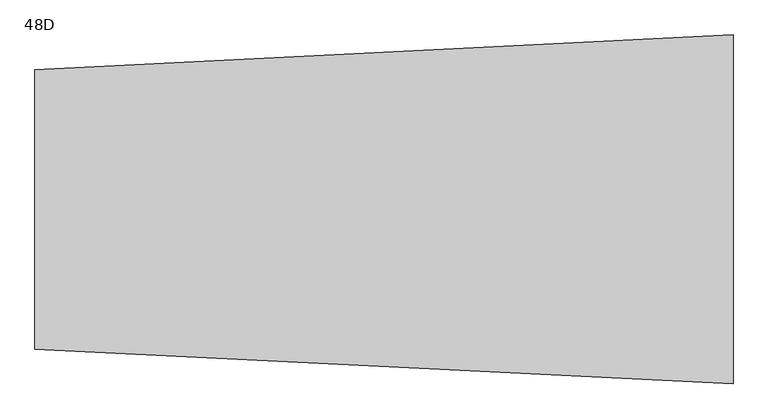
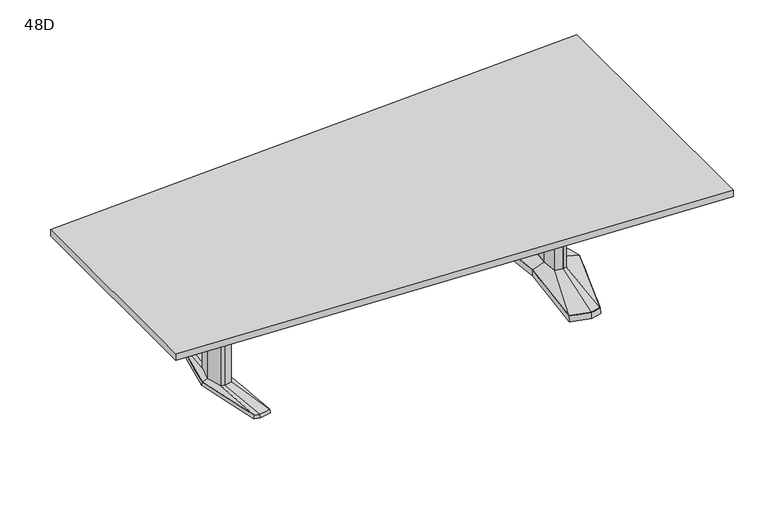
"""IFC4 building model written with IfcOpenShell, lengths in millimetres: furniture geometry, Coalesse_AM_Table_Conference_ETable2_Trapezoid_10ft_AluminiumBase : 48D."""

from ifc_helpers import new_model, si_unit, frame, origin, place, context, project, spatial, polyline, outline, extrude, faceted_brep, source, transform, mapped, element, save
from ifc_brep_helpers import plane_surface, spline_surface, advanced_brep


def furniture_48d_a1e4d97a(model_context):
    return source(origin(), model_context, "Body", "SolidModel", [
        faceted_brep([(905.8306835, 455.5848221, 38.1), (796.2531277, 426.2263816, 38.1), (837.4163717, 0.0, 38.1), (796.2531277, -426.2263816, 38.1), (905.8306835, -455.5848221, 38.1), (961.9570396, -440.5478297, 38.1), (1099.2684269, 0.0, 38.1), (961.9570396, 440.5478297, 38.1), (905.8306754, 457.2283104, 3.175), (963.2124472, 441.8549756, 3.175), (1100.93125, 0.0, 3.175), (963.2124472, -441.8549756, 3.175), (905.8306754, -457.2283104, 3.175), (794.54375, -427.4118891, 3.175), (835.8214856, 0.0, 3.175), (794.54375, 427.4118891, 3.175), (909.420115, 428.3273875, 3.175), (804.3718228, 402.1057253, 3.175), (812.490518, 377.985069, 3.175), (913.0095466, 401.0699529, 3.175), (963.5691725, 387.524361, 3.175), (962.7631061, 414.0360954, 3.175), (909.420115, -428.3273875, 3.175), (962.7631061, -414.0360954, 3.175), (963.5691725, -387.524361, 3.175), (913.0095466, -401.0699529, 3.175), (812.490518, -377.985069, 3.175), (804.3718228, -402.1057253, 3.175), (1036.0153621, 0.0, 3.175), (1003.7459611, 120.4193755, 3.175), (955.0987222, 133.471665, 3.175), (875.2180526, 119.4176561, 3.175), (864.0868466, 0.0, 3.175), (875.2180526, -119.4176561, 3.175), (955.0987222, -133.471665, 3.175), (1003.7459611, -120.4193755, 3.175), (909.420115, 428.3273875, 0.0), (962.7631061, 414.0360954, 0.0), (963.5691725, 387.524361, 0.0), (913.0095466, 401.0699529, 0.0), (812.490518, 377.985069, 0.0), (804.3718228, 402.1057253, 0.0), (909.420115, -428.3273875, 0.0), (804.3718228, -402.1057253, 0.0), (812.490518, -377.985069, 0.0), (913.0095466, -401.0699529, 0.0), (963.5691725, -387.524361, 0.0), (962.7631061, -414.0360954, 0.0), (1036.0153621, 0.0, 0.0), (1003.7459611, -120.4193755, 0.0), (955.0987222, -133.471665, 0.0), (875.2180526, -119.4176561, 0.0), (864.0868466, 0.0, 0.0), (875.2180526, 119.4176561, 0.0), (955.0987222, 133.471665, 0.0), (1003.7459611, 120.4193755, 0.0)], [[[0, 1, 2, 3, 4, 5, 6, 7]], [[8, 9, 10, 11, 12, 13, 14, 15], [16, 17, 18, 19, 20, 21], [22, 23, 24, 25, 26, 27], [28, 29, 30, 31, 32, 33, 34, 35]], [[7, 9, 8, 0]], [[6, 10, 9, 7]], [[5, 11, 10, 6]], [[4, 12, 11, 5]], [[3, 13, 12, 4]], [[2, 14, 13, 3]], [[1, 15, 14, 2]], [[0, 8, 15, 1]], [[36, 37, 38, 39, 40, 41]], [[42, 43, 44, 45, 46, 47]], [[48, 49, 50, 51, 52, 53, 54, 55]], [[36, 16, 21, 37]], [[37, 21, 20, 38]], [[38, 20, 19, 39]], [[39, 19, 18, 40]], [[40, 18, 17, 41]], [[41, 17, 16, 36]], [[42, 22, 27, 43]], [[43, 27, 26, 44]], [[44, 26, 25, 45]], [[45, 25, 24, 46]], [[46, 24, 23, 47]], [[47, 23, 22, 42]], [[48, 28, 35, 49]], [[49, 35, 34, 50]], [[50, 34, 33, 51]], [[51, 33, 32, 52]], [[52, 32, 31, 53]], [[53, 31, 30, 54]], [[54, 30, 29, 55]], [[55, 29, 28, 48]]]),
        faceted_brep([(996.5710836, 0.0, 698.5), (972.6358546, 89.3188359, 698.5), (955.7824984, 93.8406728, 698.5), (953.3826511, 94.4845635, 698.5), (910.455146, 86.9320037, 698.5), (902.3520056, 0.0, 698.5), (910.455146, -86.9320037, 698.5), (953.3826511, -94.4845635, 698.5), (955.7824984, -93.8406728, 698.5), (972.6358546, -89.3188359, 698.5), (996.5710836, 0.0, 63.5), (972.6358546, -89.3188359, 63.5), (955.7824984, -93.8406728, 63.5), (953.3826511, -94.4845635, 63.5), (910.455146, -86.9320037, 63.5), (902.3520056, 0.0, 63.5), (910.455146, 86.9320037, 63.5), (953.3826511, 94.4845635, 63.5), (955.7824984, 93.8406728, 63.5), (972.6358546, 89.3188359, 63.5)], [[[0, 1, 2, 3, 4, 5, 6, 7, 8, 9]], [[10, 11, 12, 13, 14, 15, 16, 17, 18, 19]], [[9, 11, 10, 0]], [[8, 12, 11, 9]], [[7, 13, 12, 8]], [[6, 14, 13, 7]], [[5, 15, 14, 6]], [[4, 16, 15, 5]], [[3, 17, 16, 4]], [[2, 18, 17, 3]], [[1, 19, 18, 2]], [[0, 10, 19, 1]]]),
        advanced_brep(
        [(953.3826511, 94.4845635, 63.5), (910.455146, 86.9320037, 63.5), (902.3520056, 0.0, 63.5), (910.455146, -86.9320037, 63.5), (953.3826511, -94.4845635, 63.5), (972.6358546, -89.3188359, 63.5), (996.5710836, 0.0, 63.5), (972.6358546, 89.3188359, 63.5), (905.8306835, 455.5848221, 38.1), (961.9570396, 440.5478297, 38.1), (1099.2684269, 0.0, 38.1), (961.9570396, -440.5478297, 38.1), (905.8306835, -455.5848221, 38.1), (796.2531277, -426.2263816, 38.1), (837.4163717, 0.0, 38.1), (796.2531277, 426.2263816, 38.1)],
        [
            (0, 1),
            (1, 2),
            (2, 3),
            (3, 4),
            (4, 5),
            (5, 6),
            (6, 7),
            (7, 0),
            (8, 9),
            (9, 10),
            (10, 11),
            (11, 12),
            (12, 13),
            (13, 14),
            (14, 15),
            (15, 8),
            (8, 0),
            (7, 9),
            (6, 10),
            (5, 11),
            (4, 12),
            (3, 13),
            (2, 14),
            (1, 15),
        ],
        [
            plane_surface(frame((946.4837991, 0.0, 63.5), z_axis=(0.0, 0.0, 1.0), x_axis=(-0.25884244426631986, -0.9659195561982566, 0.0))),
            plane_surface(frame((908.0958125, 0.0, 38.1), z_axis=(0.0, 0.0, -1.0), x_axis=(-0.25884244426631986, -0.9659195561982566, 0.0))),
            spline_surface(1, 1, [[(905.8306835, 455.5848221, 38.1), (961.9570396, 440.5478297, 38.1)], [(953.3826511, 94.4845635, 63.5), (972.6358546, 89.3188359, 63.5)]], [2, 2], [2, 2], [0.0, 1.0], [0.0, 1.0]),
            spline_surface(1, 1, [[(961.9570396, 440.5478297, 38.1), (1099.2684269, 0.0, 38.1)], [(972.6358546, 89.3188359, 63.5), (996.5710836, 0.0, 63.5)]], [2, 2], [2, 2], [0.0, 1.0], [0.0, 1.0]),
            spline_surface(1, 1, [[(1099.2684269, 0.0, 38.1), (961.9570396, -440.5478297, 38.1)], [(996.5710836, 0.0, 63.5), (972.6358546, -89.3188359, 63.5)]], [2, 2], [2, 2], [0.0, 1.0], [0.0, 1.0]),
            spline_surface(1, 1, [[(961.9570396, -440.5478297, 38.1), (905.8306835, -455.5848221, 38.1)], [(972.6358546, -89.3188359, 63.5), (953.3826511, -94.4845635, 63.5)]], [2, 2], [2, 2], [0.0, 1.0], [0.0, 1.0]),
            spline_surface(1, 1, [[(905.8306835, -455.5848221, 38.1), (796.2531277, -426.2263816, 38.1)], [(953.3826511, -94.4845635, 63.5), (910.455146, -86.9320037, 63.5)]], [2, 2], [2, 2], [0.0, 1.0], [0.0, 1.0]),
            spline_surface(1, 1, [[(796.2531277, -426.2263816, 38.1), (837.4163717, 0.0, 38.1)], [(910.455146, -86.9320037, 63.5), (902.3520056, 0.0, 63.5)]], [2, 2], [2, 2], [0.0, 1.0], [0.0, 1.0]),
            spline_surface(1, 1, [[(837.4163717, 0.0, 38.1), (796.2531277, 426.2263816, 38.1)], [(902.3520056, 0.0, 63.5), (910.455146, 86.9320037, 63.5)]], [2, 2], [2, 2], [0.0, 1.0], [0.0, 1.0]),
            spline_surface(1, 1, [[(796.2531277, 426.2263816, 38.1), (905.8306835, 455.5848221, 38.1)], [(910.455146, 86.9320037, 63.5), (953.3826511, 94.4845635, 63.5)]], [2, 2], [2, 2], [0.0, 1.0], [0.0, 1.0]),
        ],
        [
            (0, [[1, 2, 3, 4, 5, 6, 7, 8]]),
            (1, [[9, 10, 11, 12, 13, 14, 15, 16]]),
            (2, [[17, -8, 18, -9]]),
            (3, [[-18, -7, 19, -10]]),
            (4, [[-19, -6, 20, -11]]),
            (5, [[-20, -5, 21, -12]]),
            (6, [[-21, -4, 22, -13]]),
            (7, [[-22, -3, 23, -14]]),
            (8, [[-23, -2, 24, -15]]),
            (9, [[-24, -1, -17, -16]]),
        ],
    ),
        advanced_brep(
        [(-917.2690971, -379.3768856, 25.4), (-951.3982754, -94.605478, 36.5125), (-970.6514743, -89.293702, 36.5125), (-946.9944136, -371.5332654, 25.4), (-854.1800038, -368.5071562, 25.4), (-908.4708501, -87.0529327, 36.5125), (-882.2577254, 0.3970149, 25.4), (-900.3551707, 0.0, 36.5125), (-854.1802502, 368.5172593, 25.4), (-908.4708501, 87.0529327, 36.5125), (-917.2689733, 379.3769183, 25.4), (-951.3982754, 94.605478, 36.5125), (-947.1722958, 371.4863276, 25.4), (-970.6514743, 89.293702, 36.5125), (-1023.9039163, 0.0003516, 25.4), (-994.5782751, 0.0, 36.5125), (-880.6656242, 0.3968871, 3.175), (-852.4875, -369.8264415, 3.175), (-917.3400504, -381.0, 3.175), (-948.3497317, -372.8174744, 3.175), (-1025.525, 0.0, 3.175), (-948.5280745, 372.7704151, 3.175), (-917.3400504, 381.0, 3.175), (-852.4875, 369.8367279, 3.175), (-952.0166764, 107.6121478, 3.175), (-981.0370973, 99.6056872, 3.175), (-1007.7270585, 0.0, 3.175), (-981.0370973, -99.6056872, 3.175), (-952.0166764, -107.6121478, 3.175), (-896.7252951, -97.8843184, 3.175), (-887.5998387, 0.0, 3.175), (-896.7252951, 97.8843184, 3.175), (-915.8474312, 346.9152841, 3.175), (-949.9732026, 337.9105158, 3.175), (-951.0913109, 324.4807859, 3.175), (-915.2788144, 333.9306305, 3.175), (-862.6077418, 324.8641942, 3.175), (-860.1998871, 337.3364985, 3.175), (-915.8474312, -346.9152841, 3.175), (-860.1998871, -337.3364985, 3.175), (-862.6077418, -324.8641942, 3.175), (-915.2788144, -333.9306305, 3.175), (-951.0913109, -324.4807859, 3.175), (-949.9732026, -337.9105158, 3.175), (-952.0166764, 107.6121478, 0.0), (-896.7252951, 97.8843184, 0.0), (-887.5998387, 0.0, 0.0), (-896.7252951, -97.8843184, 0.0), (-952.0166764, -107.6121478, 0.0), (-981.0370973, -99.6056872, 0.0), (-1007.7270585, 0.0, 0.0), (-981.0370973, 99.6056872, 0.0), (-915.8474312, 346.9152841, 0.0), (-860.1998871, 337.3364985, 0.0), (-862.6077418, 324.8641942, 0.0), (-915.2788144, 333.9306305, 0.0), (-951.0913109, 324.4807859, 0.0), (-949.9732026, 337.9105158, 0.0), (-915.8474312, -346.9152841, 0.0), (-949.9732026, -337.9105158, 0.0), (-951.0913109, -324.4807859, 0.0), (-915.2788144, -333.9306305, 0.0), (-862.6077418, -324.8641942, 0.0), (-860.1998871, -337.3364985, 0.0), (-970.6514743, 89.293702, 698.5), (-994.5782751, 0.0, 698.5), (-970.6514743, -89.293702, 698.5), (-951.3982754, -94.605478, 698.5), (-908.4708501, -87.0529327, 698.5), (-900.3551707, 0.0, 698.5), (-908.4708501, 87.0529327, 698.5), (-951.3982754, 94.605478, 698.5)],
        [
            (0, 1),
            (1, 2),
            (2, 3),
            (3, 0),
            (0, 4),
            (4, 5),
            (5, 1),
            (4, 6),
            (6, 7),
            (7, 5),
            (6, 8),
            (8, 9),
            (9, 7),
            (8, 10),
            (10, 11),
            (11, 9),
            (10, 12),
            (12, 13),
            (13, 11),
            (12, 14),
            (14, 15),
            (15, 13),
            (2, 15),
            (14, 3),
            (16, 17),
            (17, 18),
            (18, 19),
            (19, 20),
            (20, 21),
            (21, 22),
            (22, 23),
            (23, 16),
            (24, 25),
            (25, 26),
            (26, 27),
            (27, 28),
            (28, 29),
            (29, 30),
            (30, 31),
            (31, 24),
            (32, 33),
            (33, 34),
            (34, 35),
            (35, 36),
            (36, 37),
            (37, 32),
            (38, 39),
            (39, 40),
            (40, 41),
            (41, 42),
            (42, 43),
            (43, 38),
            (23, 8),
            (6, 16),
            (22, 10),
            (21, 12),
            (20, 14),
            (19, 3),
            (18, 0),
            (17, 4),
            (44, 45),
            (45, 46),
            (46, 47),
            (47, 48),
            (48, 49),
            (49, 50),
            (50, 51),
            (51, 44),
            (52, 53),
            (53, 54),
            (54, 55),
            (55, 56),
            (56, 57),
            (57, 52),
            (58, 59),
            (59, 60),
            (60, 61),
            (61, 62),
            (62, 63),
            (63, 58),
            (51, 25),
            (24, 44),
            (50, 26),
            (49, 27),
            (48, 28),
            (47, 29),
            (46, 30),
            (45, 31),
            (57, 33),
            (32, 52),
            (56, 34),
            (55, 35),
            (54, 36),
            (53, 37),
            (63, 39),
            (38, 58),
            (62, 40),
            (61, 41),
            (60, 42),
            (59, 43),
            (64, 65),
            (65, 66),
            (66, 67),
            (67, 68),
            (68, 69),
            (69, 70),
            (70, 71),
            (71, 64),
            (64, 13),
            (15, 65),
            (2, 66),
            (1, 67),
            (5, 68),
            (7, 69),
            (9, 70),
            (11, 71),
        ],
        [
            spline_surface(1, 1, [[(-946.9944136, -371.5332654, 25.4), (-970.6514743, -89.293702, 36.5125)], [(-917.2690971, -379.3768856, 25.4), (-951.3982754, -94.605478, 36.5125)]], [2, 2], [2, 2], [0.0, 1.0], [0.0, 1.0]),
            spline_surface(1, 1, [[(-917.2690971, -379.3768856, 25.4), (-951.3982754, -94.605478, 36.5125)], [(-854.1800038, -368.5071562, 25.4), (-908.4708501, -87.0529327, 36.5125)]], [2, 2], [2, 2], [0.0, 1.0], [0.0, 1.0]),
            spline_surface(1, 1, [[(-854.1800038, -368.5071562, 25.4), (-908.4708501, -87.0529327, 36.5125)], [(-882.2577254, 0.3970149, 25.4), (-900.3551707, 0.0, 36.5125)]], [2, 2], [2, 2], [0.0, 1.0], [0.0, 1.0]),
            spline_surface(1, 1, [[(-882.2577254, 0.3970149, 25.4), (-900.3551707, 0.0, 36.5125)], [(-854.1802502, 368.5172593, 25.4), (-908.4708501, 87.0529327, 36.5125)]], [2, 2], [2, 2], [0.0, 1.0], [0.0, 1.0]),
            spline_surface(1, 1, [[(-854.1802502, 368.5172593, 25.4), (-908.4708501, 87.0529327, 36.5125)], [(-917.2689733, 379.3769183, 25.4), (-951.3982754, 94.605478, 36.5125)]], [2, 2], [2, 2], [0.0, 1.0], [0.0, 1.0]),
            spline_surface(1, 1, [[(-917.2689733, 379.3769183, 25.4), (-951.3982754, 94.605478, 36.5125)], [(-947.1722958, 371.4863276, 25.4), (-970.6514743, 89.293702, 36.5125)]], [2, 2], [2, 2], [0.0, 1.0], [0.0, 1.0]),
            spline_surface(1, 1, [[(-947.1722958, 371.4863276, 25.4), (-970.6514743, 89.293702, 36.5125)], [(-1023.9039163, 0.0003516, 25.4), (-994.5782751, 0.0, 36.5125)]], [2, 2], [2, 2], [0.0, 1.0], [0.0, 1.0]),
            spline_surface(1, 1, [[(-1023.9039163, 0.0003516, 25.4), (-994.5782751, 0.0, 36.5125)], [(-946.9944136, -371.5332654, 25.4), (-970.6514743, -89.293702, 36.5125)]], [2, 2], [2, 2], [0.0, 1.0], [0.0, 1.0]),
            plane_surface(frame((-917.8404414, 0.0450143, 3.175), z_axis=(0.0, 0.0, -1.0), x_axis=(0.9669048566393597, -0.2551372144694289, 0.0))),
            plane_surface(frame((-866.5765621, 185.1168075, 3.175), z_axis=(0.9945699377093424, -0.07585840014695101, 0.0712470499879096), x_axis=(0.07605167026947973, 0.9971038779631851, 0.0))),
            plane_surface(frame((-884.9137752, 375.418364, 3.175), z_axis=(0.1692071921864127, 0.9830019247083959, 0.07124704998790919), x_axis=(-0.985506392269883, 0.16963829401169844, 0.0))),
            plane_surface(frame((-932.9340624, 376.8852076, 3.175), z_axis=(-0.2544888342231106, 0.9644476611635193, 0.07124704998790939), x_axis=(-0.9669048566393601, -0.25513721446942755, 0.0))),
            plane_surface(frame((-987.0265372, 186.3852076, 3.175), z_axis=(-0.9768383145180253, 0.2017690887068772, 0.07124704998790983), x_axis=(-0.20228315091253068, -0.9793270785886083, 0.0))),
            plane_surface(frame((-986.9373658, -186.4087372, 3.175), z_axis=(-0.9767507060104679, -0.20219276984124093, 0.07124704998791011), x_axis=(0.2027079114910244, -0.9792392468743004, 0.0))),
            plane_surface(frame((-932.844891, -376.9087372, 3.175), z_axis=(-0.2544888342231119, -0.9644476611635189, 0.0712470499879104), x_axis=(0.9669048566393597, -0.2551372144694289, 0.0))),
            plane_surface(frame((-884.9137752, -375.4132207, 3.175), z_axis=(0.16935861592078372, -0.982975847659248, 0.07124704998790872), x_axis=(0.9854802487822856, 0.16979010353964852, 0.0))),
            plane_surface(frame((-866.5765621, -184.7147772, 3.175), z_axis=(0.9945820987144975, 0.07569878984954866, 0.07124704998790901), x_axis=(-0.07589165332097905, 0.9971160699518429, 0.0))),
            plane_surface(frame((-954.7758979, 106.8509046, 0.0), z_axis=(0.0, 0.0, -1.0000000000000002), x_axis=(0.9639855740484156, 0.26595453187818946, 0.0))),
            plane_surface(frame((-952.0166764, 107.6121478, 3.175), z_axis=(-0.26595453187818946, 0.9639855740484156, 0.0), x_axis=(0.0, 0.0, -1.0))),
            plane_surface(frame((-981.0370973, 99.6056872, 3.175), z_axis=(-0.9659241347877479, 0.2588253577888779, 0.0), x_axis=(0.0, 0.0, -1.0))),
            plane_surface(frame((-1007.7270585, 0.0, 3.175), z_axis=(-0.9659241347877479, -0.2588253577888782, 0.0), x_axis=(0.0, 0.0, -1.0))),
            plane_surface(frame((-981.0370973, -99.6056872, 3.175), z_axis=(-0.26595453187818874, -0.9639855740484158, 0.0), x_axis=(0.0, 0.0, -1.0))),
            plane_surface(frame((-952.0166764, -107.6121478, 3.175), z_axis=(0.17327617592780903, -0.9848732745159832, 0.0), x_axis=(0.0, 0.0, -1.0))),
            plane_surface(frame((-896.7252951, -97.8843184, 3.175), z_axis=(0.9956824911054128, -0.0928244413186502, 0.0), x_axis=(0.0, 0.0, -1.0))),
            plane_surface(frame((-887.5998387, 0.0, 3.175), z_axis=(0.9956824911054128, 0.09282444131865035, 0.0), x_axis=(0.0, 0.0, -1.0))),
            plane_surface(frame((-896.7252951, 97.8843184, 3.175), z_axis=(0.17327617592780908, 0.984873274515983, 0.0), x_axis=(0.0, 0.0, -1.0))),
            plane_surface(frame((-915.8474312, 346.9152841, 3.175), z_axis=(-0.25513721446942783, 0.9669048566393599, 0.0), x_axis=(0.0, 0.0, -1.0))),
            plane_surface(frame((-949.9732026, 337.9105158, 3.175), z_axis=(-0.9965521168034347, 0.0829691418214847, 0.0), x_axis=(0.0, 0.0, -1.0))),
            plane_surface(frame((-951.0913109, 324.4807859, 3.175), z_axis=(0.25513721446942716, -0.9669048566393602, 0.0), x_axis=(0.0, 0.0, -1.0))),
            plane_surface(frame((-915.2788144, 333.9306305, 3.175), z_axis=(-0.16963829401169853, -0.985506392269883, 0.0), x_axis=(0.0, 0.0, -1.0))),
            plane_surface(frame((-862.6077418, 324.8641942, 3.175), z_axis=(0.9818699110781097, -0.18955600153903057, 0.0), x_axis=(0.0, 0.0, -1.0))),
            plane_surface(frame((-860.1998871, 337.3364985, 3.175), z_axis=(0.16963829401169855, 0.9855063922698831, 0.0), x_axis=(0.0, 0.0, -1.0))),
            plane_surface(frame((-915.8474312, -346.9152841, 3.175), z_axis=(0.1696382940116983, -0.9855063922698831, 0.0), x_axis=(0.0, 0.0, -1.0))),
            plane_surface(frame((-860.1998871, -337.3364985, 3.175), z_axis=(0.9818699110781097, 0.18955600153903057, 0.0), x_axis=(0.0, 0.0, -1.0))),
            plane_surface(frame((-862.6077418, -324.8641942, 3.175), z_axis=(-0.16963829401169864, 0.985506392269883, 0.0), x_axis=(0.0, 0.0, -1.0))),
            plane_surface(frame((-915.2788144, -333.9306305, 3.175), z_axis=(0.2551372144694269, 0.9669048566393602, 0.0), x_axis=(0.0, 0.0, -1.0))),
            plane_surface(frame((-951.0913109, -324.4807859, 3.175), z_axis=(-0.9965521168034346, -0.0829691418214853, 0.0), x_axis=(0.0, 0.0, -1.0))),
            plane_surface(frame((-949.9732026, -337.9105158, 3.175), z_axis=(-0.2551372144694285, -0.9669048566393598, 0.0), x_axis=(0.0, 0.0, -1.0))),
            plane_surface(frame((-994.5782751, 0.0, 698.5), z_axis=(0.0, 0.0, 1.0), x_axis=(-0.25882535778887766, -0.965924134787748, 0.0))),
            plane_surface(frame((-970.6514743, 89.293702, 698.5), z_axis=(-0.965924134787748, 0.25882535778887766, 0.0), x_axis=(0.0, 0.0, -1.0))),
            plane_surface(frame((-994.5782751, 0.0, 698.5), z_axis=(-0.965924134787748, -0.2588253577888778, 0.0), x_axis=(0.0, 0.0, -1.0))),
            plane_surface(frame((-970.6514743, -89.293702, 698.5), z_axis=(-0.2659545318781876, -0.963985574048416, 0.0), x_axis=(0.0, 0.0, -1.0))),
            plane_surface(frame((-951.3982754, -94.605478, 698.5), z_axis=(0.1732761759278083, -0.9848732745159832, 0.0), x_axis=(0.0, 0.0, -1.0))),
            plane_surface(frame((-908.4708501, -87.0529327, 698.5), z_axis=(0.9956824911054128, -0.0928244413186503, 0.0), x_axis=(0.0, 0.0, -1.0))),
            plane_surface(frame((-900.3551707, 0.0, 698.5), z_axis=(0.9956824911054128, 0.09282444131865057, 0.0), x_axis=(0.0, 0.0, -1.0))),
            plane_surface(frame((-908.4708501, 87.0529327, 698.5), z_axis=(0.17327617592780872, 0.9848732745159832, 0.0), x_axis=(0.0, 0.0, -1.0))),
            plane_surface(frame((-951.3982754, 94.605478, 698.5), z_axis=(-0.26595453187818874, 0.9639855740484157, 0.0), x_axis=(0.0, 0.0, -1.0))),
        ],
        [
            (0, [[1, 2, 3, 4]]),
            (1, [[-1, 5, 6, 7]]),
            (2, [[-6, 8, 9, 10]]),
            (3, [[-9, 11, 12, 13]]),
            (4, [[-12, 14, 15, 16]]),
            (5, [[-15, 17, 18, 19]]),
            (6, [[-18, 20, 21, 22]]),
            (7, [[-3, 23, -21, 24]]),
            (8, [[25, 26, 27, 28, 29, 30, 31, 32], [33, 34, 35, 36, 37, 38, 39, 40], [41, 42, 43, 44, 45, 46], [47, 48, 49, 50, 51, 52]]),
            (9, [[-32, 53, -11, 54]]),
            (10, [[-31, 55, -14, -53]]),
            (11, [[-30, 56, -17, -55]]),
            (12, [[-29, 57, -20, -56]]),
            (13, [[-28, 58, -24, -57]]),
            (14, [[-27, 59, -4, -58]]),
            (15, [[-26, 60, -5, -59]]),
            (16, [[-25, -54, -8, -60]]),
            (17, [[61, 62, 63, 64, 65, 66, 67, 68]]),
            (17, [[69, 70, 71, 72, 73, 74]]),
            (17, [[75, 76, 77, 78, 79, 80]]),
            (18, [[-68, 81, -33, 82]]),
            (19, [[-67, 83, -34, -81]]),
            (20, [[-66, 84, -35, -83]]),
            (21, [[-65, 85, -36, -84]]),
            (22, [[-64, 86, -37, -85]]),
            (23, [[-63, 87, -38, -86]]),
            (24, [[-62, 88, -39, -87]]),
            (25, [[-61, -82, -40, -88]]),
            (26, [[-74, 89, -41, 90]]),
            (27, [[-73, 91, -42, -89]]),
            (28, [[-72, 92, -43, -91]]),
            (29, [[-71, 93, -44, -92]]),
            (30, [[-70, 94, -45, -93]]),
            (31, [[-69, -90, -46, -94]]),
            (32, [[-80, 95, -47, 96]]),
            (33, [[-79, 97, -48, -95]]),
            (34, [[-78, 98, -49, -97]]),
            (35, [[-77, 99, -50, -98]]),
            (36, [[-76, 100, -51, -99]]),
            (37, [[-75, -96, -52, -100]]),
            (38, [[101, 102, 103, 104, 105, 106, 107, 108]]),
            (39, [[-101, 109, -22, 110]]),
            (40, [[-102, -110, -23, 111]]),
            (41, [[-103, -111, -2, 112]]),
            (42, [[-104, -112, -7, 113]]),
            (43, [[-105, -113, -10, 114]]),
            (44, [[-106, -114, -13, 115]]),
            (45, [[-107, -115, -16, 116]]),
            (46, [[-108, -116, -19, -109]]),
        ],
    ),
        extrude(outline(polyline([(1524.0, 762.0), (1524.0, -762.0), (-1524.0, -609.6), (-1524.0, 609.6), (1524.0, 762.0)])), frame((0.0, 0.0, 698.5), z_axis=(0.0, 0.0, 1.0), x_axis=(1.0, 0.0, 0.0)), (0.0, 0.0, 1.0), 38.1),
        extrude(outline(polyline([(96.8375, 698.5), (103.1875, 698.5), (103.1875, 476.25), (-103.1875, 476.25), (-103.1875, 698.5), (-96.8375, 698.5), (-96.8375, 482.6), (96.8375, 482.6), (96.8375, 698.5)])), frame((-900.1125, 0.0, 0.0), z_axis=(1.0, 0.0, 0.0), x_axis=(0.0, 1.0, 0.0)), (0.0, 0.0, 1.0), 1802.60625),
    ])


if __name__ == "__main__":
    model = new_model("IFC4")
    model_context = context("Model", 3, world=origin())
    ifc_project = project(units=[si_unit("LENGTHUNIT", "METRE", prefix="MILLI")], contexts=[model_context])
    site = spatial("IfcSite", under=ifc_project)
    building = spatial("IfcBuilding", under=site)
    placement = place(None, origin())
    furniture_48d_shape = furniture_48d_a1e4d97a(model_context)
    element("IfcFurniture", 1, ObjectType="Coalesse_AM_Table_Conference_ETable2_Trapezoid_10ft_AluminiumBase : 48D", at=placement, inside=building, context=model_context, shape_type="MappedRepresentation", body=[
        mapped(furniture_48d_shape, transform((0.0, 0.0, 0.0), x_axis=(1.0, 0.0, 0.0), y_axis=(0.0, 1.0, 0.0), z_axis=(0.0, 0.0, 1.0))),
    ])
    save(model, "model.ifc")
